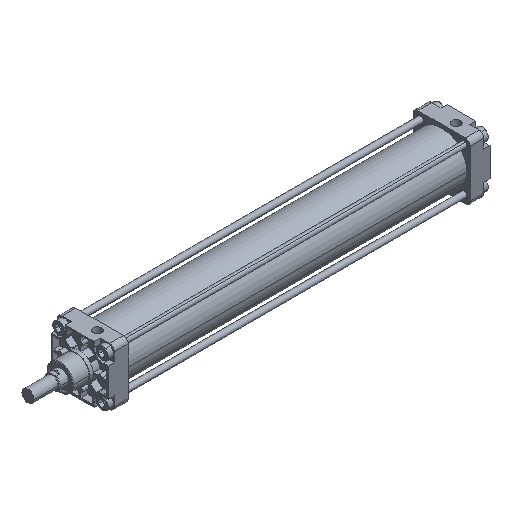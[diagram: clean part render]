
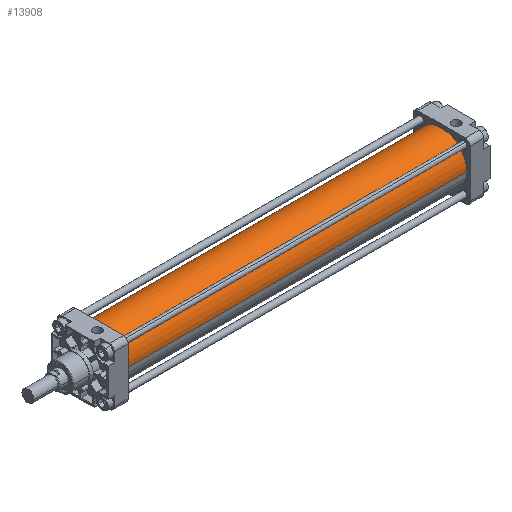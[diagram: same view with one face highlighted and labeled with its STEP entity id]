
A CAD part, isometric view. The second image highlights one B-rep face of the part: STEP entity #13908.
In plain terms, the highlighted cylindrical face has radius 42 mm (diameter 84 mm), a partial arc.
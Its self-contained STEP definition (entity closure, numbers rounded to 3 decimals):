
#13151=CARTESIAN_POINT('Vertex',(569.,-42.,0.)) ;
#13153=CARTESIAN_POINT('Vertex',(569.,42.,0.)) ;
#13156=CARTESIAN_POINT('Axis2P3D Location',(569.,0.,0.)) ;
#13866=CARTESIAN_POINT('Axis2P3D Location',(284.5,0.,0.)) ;
#13871=CARTESIAN_POINT('Line Origine',(284.5,-42.,0.)) ;
#13875=CARTESIAN_POINT('Vertex',(0.,-42.,0.)) ;
#13882=CARTESIAN_POINT('Vertex',(0.,42.,0.)) ;
#13885=CARTESIAN_POINT('Line Origine',(284.5,42.,0.)) ;
#13897=CARTESIAN_POINT('Axis2P3D Location',(0.,0.,0.)) ;
#13157=DIRECTION('Axis2P3D Direction',(1.,0.,0.)) ;
#13867=DIRECTION('Axis2P3D Direction',(1.,0.,0.)) ;
#13868=DIRECTION('Axis2P3D XDirection',(0.,1.,0.)) ;
#13872=DIRECTION('Vector Direction',(1.,0.,0.)) ;
#13886=DIRECTION('Vector Direction',(1.,0.,0.)) ;
#13898=DIRECTION('Axis2P3D Direction',(1.,0.,0.)) ;
#13158=AXIS2_PLACEMENT_3D('Circle Axis2P3D',#13156,#13157,$) ;
#13869=AXIS2_PLACEMENT_3D('Cylinder Axis2P3D',#13866,#13867,#13868) ;
#13899=AXIS2_PLACEMENT_3D('Circle Axis2P3D',#13897,#13898,$) ;
#13903=ORIENTED_EDGE('',*,*,#13889,.F.) ;
#13904=ORIENTED_EDGE('',*,*,#13901,.T.) ;
#13905=ORIENTED_EDGE('',*,*,#13877,.T.) ;
#13906=ORIENTED_EDGE('',*,*,#13160,.F.) ;
#13873=VECTOR('Line Direction',#13872,1.) ;
#13887=VECTOR('Line Direction',#13886,1.) ;
#13908=ADVANCED_FACE('PartBody',(#13907),#13870,.T.) ;
#13159=CIRCLE('generated circle',#13158,42.) ;
#13900=CIRCLE('generated circle',#13899,42.) ;
#13870=CYLINDRICAL_SURFACE('generated cylinder',#13869,42.) ;
#13160=EDGE_CURVE('',#13154,#13152,#13159,.T.) ;
#13877=EDGE_CURVE('',#13876,#13152,#13874,.T.) ;
#13889=EDGE_CURVE('',#13883,#13154,#13888,.T.) ;
#13901=EDGE_CURVE('',#13883,#13876,#13900,.T.) ;
#13902=EDGE_LOOP('',(#13903,#13904,#13905,#13906)) ;
#13907=FACE_OUTER_BOUND('',#13902,.T.) ;
#13874=LINE('Line',#13871,#13873) ;
#13888=LINE('Line',#13885,#13887) ;
#13152=VERTEX_POINT('',#13151) ;
#13154=VERTEX_POINT('',#13153) ;
#13876=VERTEX_POINT('',#13875) ;
#13883=VERTEX_POINT('',#13882) ;
